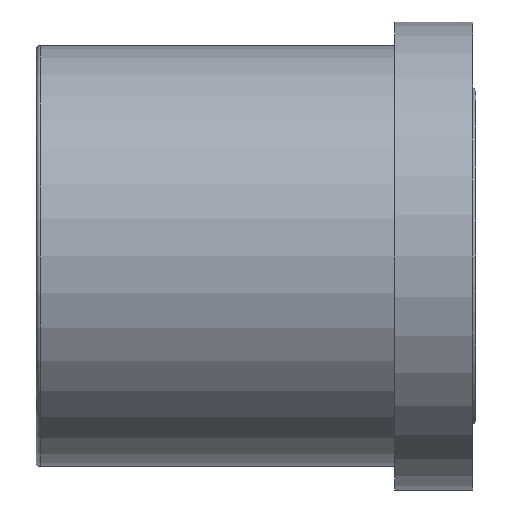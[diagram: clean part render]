
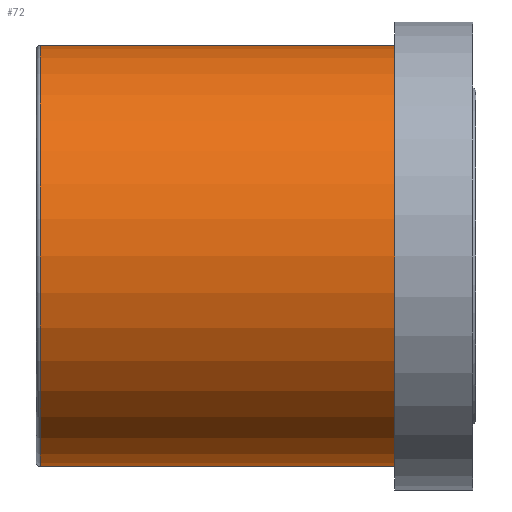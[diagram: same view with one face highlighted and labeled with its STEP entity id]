
A CAD part, left-side view. The second image highlights one B-rep face of the part: STEP entity #72.
In plain terms, the highlighted cylindrical face has radius 27 mm (diameter 54 mm), a partial arc.
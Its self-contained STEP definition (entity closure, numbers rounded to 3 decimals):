
#2 = CARTESIAN_POINT ( 'NONE',  ( 0., 0., -27. ) ) ;
#5 = DIRECTION ( 'NONE',  ( 0., -1., 0. ) ) ;
#8 = LINE ( 'NONE', #2, #395 ) ;
#36 = AXIS2_PLACEMENT_3D ( 'NONE', #205, #203, #176 ) ;
#43 = VERTEX_POINT ( 'NONE', #130 ) ;
#54 = CIRCLE ( 'NONE', #36, 27. ) ;
#56 = VERTEX_POINT ( 'NONE', #452 ) ;
#72 = ADVANCED_FACE ( 'NONE', ( #494 ), #184, .T. ) ;
#80 = EDGE_CURVE ( 'NONE', #56, #289, #389, .T. ) ;
#88 = EDGE_CURVE ( 'NONE', #56, #312, #344, .T. ) ;
#95 = ORIENTED_EDGE ( 'NONE', *, *, #140, .T. ) ;
#130 = CARTESIAN_POINT ( 'NONE',  ( 0., 0., -27. ) ) ;
#140 = EDGE_CURVE ( 'NONE', #312, #43, #8, .T. ) ;
#176 = DIRECTION ( 'NONE',  ( 0., 0., -1. ) ) ;
#180 = VECTOR ( 'NONE', #275, 1000. ) ;
#184 = CYLINDRICAL_SURFACE ( 'NONE', #342, 27. ) ;
#197 = DIRECTION ( 'NONE',  ( 0., 0., -1. ) ) ;
#203 = DIRECTION ( 'NONE',  ( 0., -1., 0. ) ) ;
#205 = CARTESIAN_POINT ( 'NONE',  ( 0., 0., 0. ) ) ;
#225 = DIRECTION ( 'NONE',  ( 0., -1., 0. ) ) ;
#227 = CARTESIAN_POINT ( 'NONE',  ( 0., 45.5, 0. ) ) ;
#259 = EDGE_LOOP ( 'NONE', ( #293, #306, #95, #314 ) ) ;
#275 = DIRECTION ( 'NONE',  ( 0., -1., 0. ) ) ;
#276 = CARTESIAN_POINT ( 'NONE',  ( 0., 0., 27. ) ) ;
#282 = CARTESIAN_POINT ( 'NONE',  ( 0., 45.5, -27. ) ) ;
#289 = VERTEX_POINT ( 'NONE', #348 ) ;
#293 = ORIENTED_EDGE ( 'NONE', *, *, #80, .F. ) ;
#306 = ORIENTED_EDGE ( 'NONE', *, *, #88, .T. ) ;
#312 = VERTEX_POINT ( 'NONE', #282 ) ;
#314 = ORIENTED_EDGE ( 'NONE', *, *, #326, .F. ) ;
#326 = EDGE_CURVE ( 'NONE', #289, #43, #54, .T. ) ;
#342 = AXIS2_PLACEMENT_3D ( 'NONE', #370, #399, #366 ) ;
#344 = CIRCLE ( 'NONE', #465, 27. ) ;
#348 = CARTESIAN_POINT ( 'NONE',  ( 0., 0., 27. ) ) ;
#366 = DIRECTION ( 'NONE',  ( 0., 0., -1. ) ) ;
#370 = CARTESIAN_POINT ( 'NONE',  ( 0., 0., 0. ) ) ;
#389 = LINE ( 'NONE', #276, #180 ) ;
#395 = VECTOR ( 'NONE', #5, 1000. ) ;
#399 = DIRECTION ( 'NONE',  ( 0., -1., 0. ) ) ;
#452 = CARTESIAN_POINT ( 'NONE',  ( 0., 45.5, 27. ) ) ;
#465 = AXIS2_PLACEMENT_3D ( 'NONE', #227, #225, #197 ) ;
#494 = FACE_OUTER_BOUND ( 'NONE', #259, .T. ) ;
